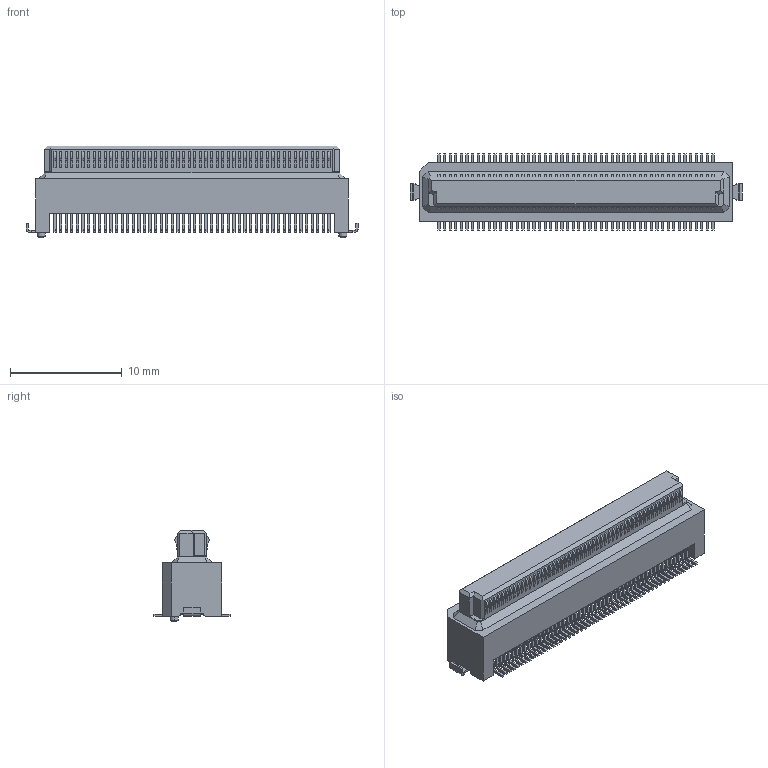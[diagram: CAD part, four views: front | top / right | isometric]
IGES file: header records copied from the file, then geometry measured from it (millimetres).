
Start section: Elysium IGES Interface
Global section: file name: 137HG:\その他\DY関連\CAD\依頼書（ウェブ）_HP用データ\60-36-0120_DY1X-S-2_S-3_S-4_S-5\DY11-S-5_(56-36-0015)\DY11-100S-5\P39894_DY11-100S-5.igs; native system: Creo Elements/Direct Modeling 20.4A  18-Oct-2021; preprocessor: Creo Element/Direct IGES_3D V2.2; author: Unknown; organization: Unknown; date: 20220225.145634; units: millimetre
Bounding box: 29.7 x 6.8 x 8.23 mm (x, y, z)
Volume: 637.3 mm3; surface area: 993.7 mm2
Topology: 1 solids, 1 shells, 1516 faces, 3903 edges, 2594 vertices
Faces by surface type: bspline 1516
